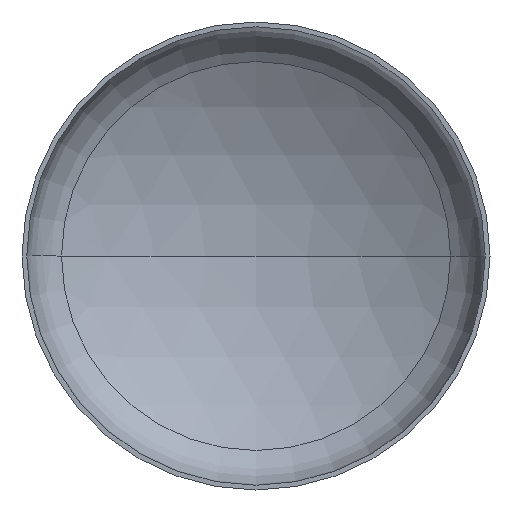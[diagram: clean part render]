
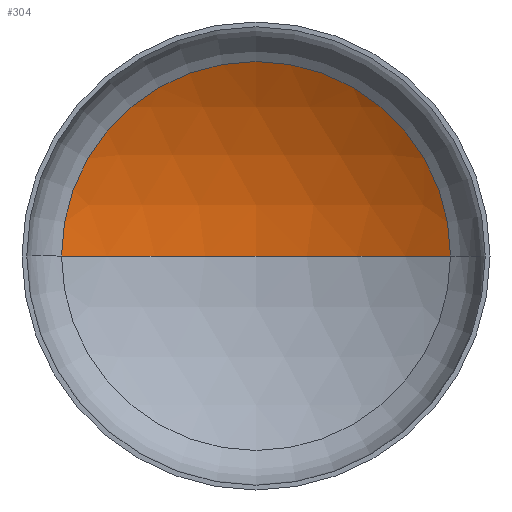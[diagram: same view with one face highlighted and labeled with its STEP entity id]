
A CAD part, front view. The second image highlights one B-rep face of the part: STEP entity #304.
In plain terms, the highlighted spherical face has radius 5600 mm.
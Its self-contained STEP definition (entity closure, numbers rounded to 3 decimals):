
#6 = DIRECTION ( 'NONE',  ( 1., 0., 0. ) ) ;
#21 = ORIENTED_EDGE ( 'NONE', *, *, #200, .T. ) ;
#23 = VERTEX_POINT ( 'NONE', #294 ) ;
#25 = ORIENTED_EDGE ( 'NONE', *, *, #203, .T. ) ;
#37 = AXIS2_PLACEMENT_3D ( 'NONE', #91, #102, #144 ) ;
#65 = ORIENTED_EDGE ( 'NONE', *, *, #206, .F. ) ;
#79 = VERTEX_POINT ( 'NONE', #239 ) ;
#89 = EDGE_LOOP ( 'NONE', ( #65, #25, #21 ) ) ;
#91 = CARTESIAN_POINT ( 'NONE',  ( 0., -3742.292, 0. ) ) ;
#102 = DIRECTION ( 'NONE',  ( 0., 0., -1. ) ) ;
#103 = VERTEX_POINT ( 'NONE', #247 ) ;
#111 = DIRECTION ( 'NONE',  ( -1., 0., 0. ) ) ;
#129 = AXIS2_PLACEMENT_3D ( 'NONE', #225, #168, #195 ) ;
#131 = AXIS2_PLACEMENT_3D ( 'NONE', #355, #314, #111 ) ;
#139 = AXIS2_PLACEMENT_3D ( 'NONE', #156, #188, #6 ) ;
#144 = DIRECTION ( 'NONE',  ( -1., 0., 0. ) ) ;
#156 = CARTESIAN_POINT ( 'NONE',  ( 0., 1042.848, 0. ) ) ;
#168 = DIRECTION ( 'NONE',  ( 0., 0., 1. ) ) ;
#172 = CIRCLE ( 'NONE', #131, 5600. ) ;
#188 = DIRECTION ( 'NONE',  ( 0., -1., 0. ) ) ;
#195 = DIRECTION ( 'NONE',  ( 1., 0., 0. ) ) ;
#200 = EDGE_CURVE ( 'NONE', #23, #103, #360, .T. ) ;
#203 = EDGE_CURVE ( 'NONE', #79, #23, #172, .T. ) ;
#206 = EDGE_CURVE ( 'NONE', #79, #103, #250, .T. ) ;
#224 = FACE_OUTER_BOUND ( 'NONE', #89, .T. ) ;
#225 = CARTESIAN_POINT ( 'NONE',  ( 0., -3742.292, 0. ) ) ;
#239 = CARTESIAN_POINT ( 'NONE',  ( 0., 1857.708, 0. ) ) ;
#247 = CARTESIAN_POINT ( 'NONE',  ( -2909.027, 1042.848, 0. ) ) ;
#250 = CIRCLE ( 'NONE', #129, 5600. ) ;
#292 = SPHERICAL_SURFACE ( 'NONE', #37, 5600. ) ;
#294 = CARTESIAN_POINT ( 'NONE',  ( 2909.027, 1042.848, 0. ) ) ;
#304 = ADVANCED_FACE ( 'NONE', ( #224 ), #292, .F. ) ;
#314 = DIRECTION ( 'NONE',  ( 0., 0., -1. ) ) ;
#355 = CARTESIAN_POINT ( 'NONE',  ( 0., -3742.292, 0. ) ) ;
#360 = CIRCLE ( 'NONE', #139, 2909.027 ) ;
